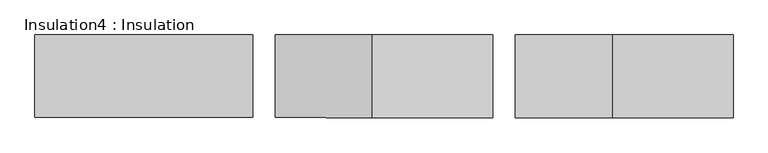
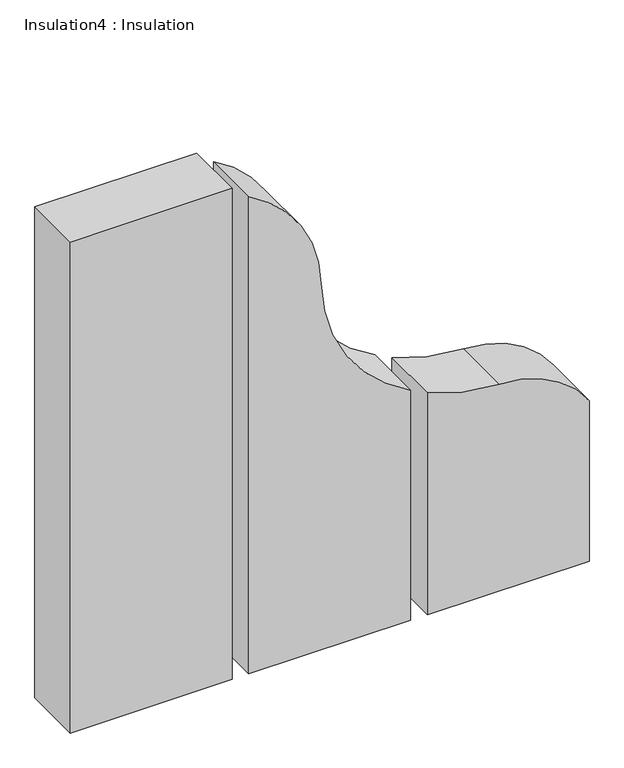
"""IFC4 building model written with IfcOpenShell, lengths in millimetres: proxy geometry, Insulation4 : Insulation."""

from ifc_helpers import new_model, si_unit, point, frame, frame_2d, origin, place, context, project, spatial, polyline, circle_curve, trimmed, segment, composite_curve, outline, extrude, source, transform, mapped, element, save


def insulation4_insulation_4921b148(model_context):
    return source(origin(), model_context, "Body", "SweptSolid", [
        extrude(outline(polyline([(182.7820282, 34285.6421435), (-185.5179718, 34285.6421435), (-185.5179718, 34425.3421435), (182.7820282, 34425.3421435), (182.7820282, 34285.6421435)])), frame((0.0, 0.0, 38.1), z_axis=(0.0, 0.0, 1.0), x_axis=(1.0, 0.0, 0.0)), (0.0, 0.0, 1.0), 1181.1),
        extrude(outline(composite_curve([segment(polyline([(38.1, 220.8820282), (38.1, 589.1820282), (591.8706469, 589.1820282)]), True, "CONTINUOUS"), segment(trimmed(circle_curve(frame_2d((925.1337293, 759.944238)), 374.4649709), [point((591.8706469, 589.1820282))], [point((918.4023164, 385.5397742))], True, "CARTESIAN"), True, "CONTINUOUS"), segment(trimmed(circle_curve(frame_2d((912.871688, 77.9235252)), 307.6659626), [point((918.4023164, 385.5397742))], [point((1185.3073886, 220.8820282))], False, "CARTESIAN"), True, "CONTINUOUS"), segment(polyline([(1185.3073886, 220.8820282), (38.1, 220.8820282)]), True, "CONTINUOUS")], self_intersect=False)), frame((0.0, 34285.6421435, 0.0), z_axis=(0.0, 1.0, 0.0), x_axis=(0.0, 0.0, 1.0)), (0.0, 0.0, 1.0), 139.7),
        extrude(outline(composite_curve([segment(polyline([(38.1, 627.2820282), (38.1, 995.5820282), (424.2455858, 995.5820282)]), True, "CONTINUOUS"), segment(trimmed(circle_curve(frame_2d((286.9857554, 788.3717143)), 248.5485369), [point((424.2455858, 995.5820282))], [point((535.510358, 791.8209323))], False, "CARTESIAN"), True, "CONTINUOUS"), segment(trimmed(circle_curve(frame_2d((948.5891228, 797.5539612)), 413.1185466), [point((535.510358, 791.8209323))], [point((572.1925203, 627.2820282))], True, "CARTESIAN"), True, "CONTINUOUS"), segment(polyline([(572.1925203, 627.2820282), (38.1, 627.2820282)]), True, "CONTINUOUS")], self_intersect=False)), frame((0.0, 34285.6421435, 0.0), z_axis=(0.0, 1.0, 0.0), x_axis=(0.0, 0.0, 1.0)), (0.0, 0.0, 1.0), 139.7),
    ])


if __name__ == "__main__":
    model = new_model("IFC4")
    model_context = context("Model", 3, world=origin())
    ifc_project = project(units=[si_unit("LENGTHUNIT", "METRE", prefix="MILLI")], contexts=[model_context])
    site = spatial("IfcSite", under=ifc_project)
    building = spatial("IfcBuilding", under=site)
    placement = place(None, origin())
    insulation4_insulation_shape = insulation4_insulation_4921b148(model_context)
    element("IfcBuildingElementProxy", 1, Name="Insulation4 : Insulation", ObjectType="Insulation4 : Insulation", at=placement, inside=building, context=model_context, shape_type="MappedRepresentation", body=[
        mapped(insulation4_insulation_shape, transform((0.0, 0.0, 0.0), x_axis=(1.0, 0.0, 0.0), y_axis=(0.0, 1.0, 0.0), z_axis=(0.0, 0.0, 1.0))),
    ])
    save(model, "model.ifc")
